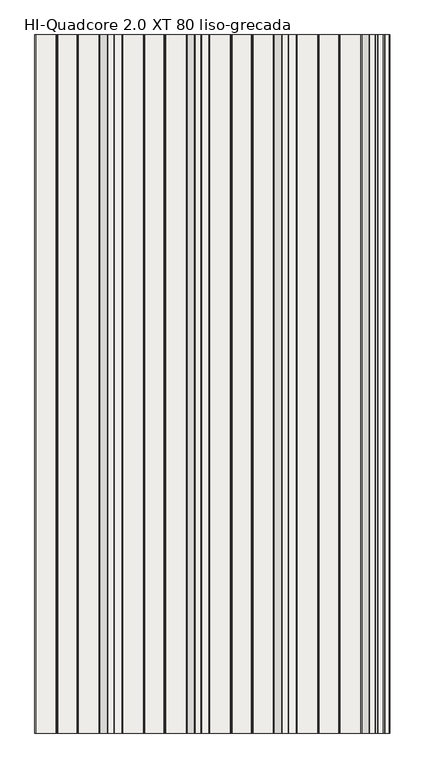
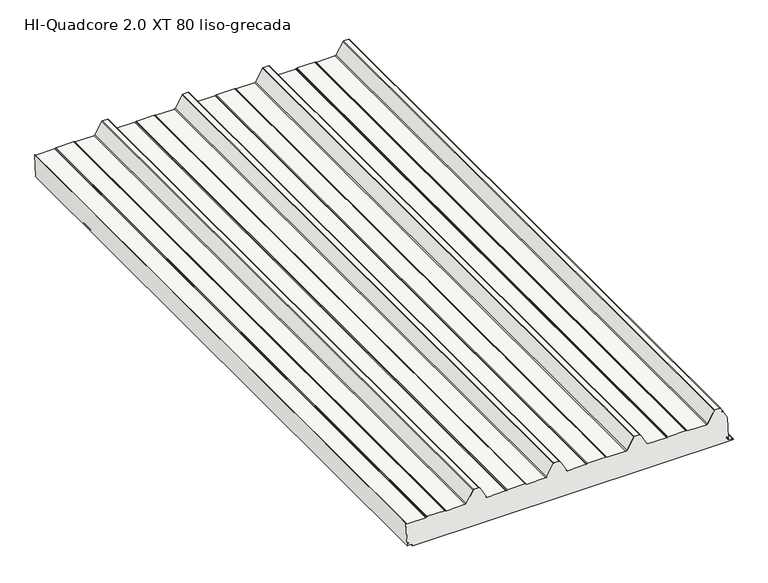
"""IFC4 building model written with IfcOpenShell, lengths in millimetres: slab geometry, HI_QuadCore2.0XT-XT DUAL : HI-Quadcore 2.0 XT 80 liso-grecada."""

from ifc_helpers import new_model, si_unit, point, frame, frame_2d, origin, place, context, project, spatial, polyline, circle_curve, trimmed, segment, composite_curve, outline, extrude, source, transform, mapped, element, save


def hi_quadcore_2_0_xt_80_liso_grecada_460e0768(model_context):
    return source(origin(), model_context, "Body", "SweptSolid", [
        extrude(outline(composite_curve([segment(polyline([(81.2667387, 1181.036551), (107.9197266, 1166.0442453)]), True, "CONTINUOUS"), segment(trimmed(circle_curve(frame_2d((106.9392041, 1164.3010942)), 2.0), [point((107.9197266, 1166.0442453))], [point((105.939301, 1166.033201))], True, "CARTESIAN"), True, "CONTINUOUS"), segment(polyline([(105.939301, 1166.033201), (104.3282068, 1165.1031555), (104.7281681, 1164.4103128), (106.3392623, 1165.3403583)]), True, "CONTINUOUS"), segment(trimmed(circle_curve(frame_2d((106.9392041, 1164.3010942)), 1.2), [point((106.3392623, 1165.3403583))], [point((107.5275176, 1165.3469849))], False, "CARTESIAN"), True, "CONTINUOUS"), segment(polyline([(107.5275176, 1165.3469849), (118.0785747, 1159.4120152)]), True, "CONTINUOUS"), segment(trimmed(circle_curve(frame_2d((117.0, 1157.4945491)), 2.2), [point((118.0785747, 1159.4120152))], [point((119.2, 1157.4945491))], False, "CARTESIAN"), True, "CONTINUOUS"), segment(polyline([(119.2, 1157.4945491), (119.2, 1142.1184247)]), True, "CONTINUOUS"), segment(trimmed(circle_curve(frame_2d((117.0, 1142.1184247)), 2.2), [point((119.2, 1142.1184247))], [point((118.0662182, 1140.1940602))], False, "CARTESIAN"), True, "CONTINUOUS"), segment(polyline([(118.0662182, 1140.1940602), (81.1583504, 1119.7447946)]), True, "CONTINUOUS"), segment(trimmed(circle_curve(frame_2d((83.0, 1116.4208923)), 3.8), [point((81.1583504, 1119.7447946))], [point((79.2, 1116.4208923))], True, "CARTESIAN"), True, "CONTINUOUS"), segment(polyline([(79.2, 1116.4208923), (79.2, 1057.5510443)]), True, "CONTINUOUS"), segment(trimmed(circle_curve(frame_2d((83.0, 1057.5510443)), 3.8), [point((79.2, 1057.5510443))], [point((79.6973596, 1055.671532))], True, "CARTESIAN"), True, "CONTINUOUS"), segment(polyline([(79.6973596, 1055.671532), (80.912055, 1053.5370944)]), True, "CONTINUOUS"), segment(trimmed(circle_curve(frame_2d((79.0, 1052.4489557)), 2.2), [point((80.912055, 1053.5370944))], [point((81.2, 1052.4489557))], False, "CARTESIAN"), True, "CONTINUOUS"), segment(polyline([(81.2, 1052.4489557), (81.2, 997.5510443)]), True, "CONTINUOUS"), segment(trimmed(circle_curve(frame_2d((79.0, 997.5510443)), 2.2), [point((81.2, 997.5510443))], [point((80.912055, 996.4629056))], False, "CARTESIAN"), True, "CONTINUOUS"), segment(polyline([(80.912055, 996.4629056), (79.6973596, 994.328468)]), True, "CONTINUOUS"), segment(trimmed(circle_curve(frame_2d((83.0, 992.4489557)), 3.8), [point((79.6973596, 994.328468))], [point((79.2, 992.4489557))], True, "CARTESIAN"), True, "CONTINUOUS"), segment(polyline([(79.2, 992.4489557), (79.2, 934.2545425)]), True, "CONTINUOUS"), segment(trimmed(circle_curve(frame_2d((83.0, 934.2545425)), 3.8), [point((79.2, 934.2545425))], [point((81.1370073, 930.9425554))], True, "CARTESIAN"), True, "CONTINUOUS"), segment(polyline([(81.1370073, 930.9425554), (118.0785747, 910.1629237)]), True, "CONTINUOUS"), segment(trimmed(circle_curve(frame_2d((117.0, 908.2454575)), 2.2), [point((118.0785747, 910.1629237))], [point((119.2, 908.2454575))], False, "CARTESIAN"), True, "CONTINUOUS"), segment(polyline([(119.2, 908.2454575), (119.2, 891.7545425)]), True, "CONTINUOUS"), segment(trimmed(circle_curve(frame_2d((117.0, 891.7545425)), 2.2), [point((119.2, 891.7545425))], [point((118.0785747, 889.8370763))], False, "CARTESIAN"), True, "CONTINUOUS"), segment(polyline([(118.0785747, 889.8370763), (81.1370073, 869.0574446)]), True, "CONTINUOUS"), segment(trimmed(circle_curve(frame_2d((83.0, 865.7454575)), 3.8), [point((81.1370073, 869.0574446))], [point((79.2, 865.7454575))], True, "CARTESIAN"), True, "CONTINUOUS"), segment(polyline([(79.2, 865.7454575), (79.2, 807.5510443)]), True, "CONTINUOUS"), segment(trimmed(circle_curve(frame_2d((83.0, 807.5510443)), 3.8), [point((79.2, 807.5510443))], [point((79.6973596, 805.671532))], True, "CARTESIAN"), True, "CONTINUOUS"), segment(polyline([(79.6973596, 805.671532), (80.912055, 803.5370944)]), True, "CONTINUOUS"), segment(trimmed(circle_curve(frame_2d((79.0, 802.4489557)), 2.2), [point((80.912055, 803.5370944))], [point((81.2, 802.4489557))], False, "CARTESIAN"), True, "CONTINUOUS"), segment(polyline([(81.2, 802.4489557), (81.2, 747.5510443)]), True, "CONTINUOUS"), segment(trimmed(circle_curve(frame_2d((79.0, 747.5510443)), 2.2), [point((81.2, 747.5510443))], [point((80.912055, 746.4629056))], False, "CARTESIAN"), True, "CONTINUOUS"), segment(polyline([(80.912055, 746.4629056), (79.6973596, 744.328468)]), True, "CONTINUOUS"), segment(trimmed(circle_curve(frame_2d((83.0, 742.4489557)), 3.8), [point((79.6973596, 744.328468))], [point((79.2, 742.4489557))], True, "CARTESIAN"), True, "CONTINUOUS"), segment(polyline([(79.2, 742.4489557), (79.2, 684.2545425)]), True, "CONTINUOUS"), segment(trimmed(circle_curve(frame_2d((83.0, 684.2545425)), 3.8), [point((79.2, 684.2545425))], [point((81.1370073, 680.9425554))], True, "CARTESIAN"), True, "CONTINUOUS"), segment(polyline([(81.1370073, 680.9425554), (118.0785747, 660.1629237)]), True, "CONTINUOUS"), segment(trimmed(circle_curve(frame_2d((117.0, 658.2454575)), 2.2), [point((118.0785747, 660.1629237))], [point((119.2, 658.2454575))], False, "CARTESIAN"), True, "CONTINUOUS"), segment(polyline([(119.2, 658.2454575), (119.2, 641.7545425)]), True, "CONTINUOUS"), segment(trimmed(circle_curve(frame_2d((117.0, 641.7545425)), 2.2), [point((119.2, 641.7545425))], [point((118.0785747, 639.8370763))], False, "CARTESIAN"), True, "CONTINUOUS"), segment(polyline([(118.0785747, 639.8370763), (81.1370073, 619.0574446)]), True, "CONTINUOUS"), segment(trimmed(circle_curve(frame_2d((83.0, 615.7454575)), 3.8), [point((81.1370073, 619.0574446))], [point((79.2, 615.7454575))], True, "CARTESIAN"), True, "CONTINUOUS"), segment(polyline([(79.2, 615.7454575), (79.2, 557.5510443)]), True, "CONTINUOUS"), segment(trimmed(circle_curve(frame_2d((83.0, 557.5510443)), 3.8), [point((79.2, 557.5510443))], [point((79.6973596, 555.671532))], True, "CARTESIAN"), True, "CONTINUOUS"), segment(polyline([(79.6973596, 555.671532), (80.912055, 553.5370944)]), True, "CONTINUOUS"), segment(trimmed(circle_curve(frame_2d((79.0, 552.4489557)), 2.2), [point((80.912055, 553.5370944))], [point((81.2, 552.4489557))], False, "CARTESIAN"), True, "CONTINUOUS"), segment(polyline([(81.2, 552.4489557), (81.2, 497.5510443)]), True, "CONTINUOUS"), segment(trimmed(circle_curve(frame_2d((79.0, 497.5510443)), 2.2), [point((81.2, 497.5510443))], [point((80.912055, 496.4629056))], False, "CARTESIAN"), True, "CONTINUOUS"), segment(polyline([(80.912055, 496.4629056), (79.6973596, 494.328468)]), True, "CONTINUOUS"), segment(trimmed(circle_curve(frame_2d((83.0, 492.4489557)), 3.8), [point((79.6973596, 494.328468))], [point((79.2, 492.4489557))], True, "CARTESIAN"), True, "CONTINUOUS"), segment(polyline([(79.2, 492.4489557), (79.2, 434.2545425)]), True, "CONTINUOUS"), segment(trimmed(circle_curve(frame_2d((83.0, 434.2545425)), 3.8), [point((79.2, 434.2545425))], [point((81.1370073, 430.9425554))], True, "CARTESIAN"), True, "CONTINUOUS"), segment(polyline([(81.1370073, 430.9425554), (118.0785747, 410.1629237)]), True, "CONTINUOUS"), segment(trimmed(circle_curve(frame_2d((117.0, 408.2454575)), 2.2), [point((118.0785747, 410.1629237))], [point((119.2, 408.2454575))], False, "CARTESIAN"), True, "CONTINUOUS"), segment(polyline([(119.2, 408.2454575), (119.2, 391.7545425)]), True, "CONTINUOUS"), segment(trimmed(circle_curve(frame_2d((117.0, 391.7545425)), 2.2), [point((119.2, 391.7545425))], [point((118.0785747, 389.8370763))], False, "CARTESIAN"), True, "CONTINUOUS"), segment(polyline([(118.0785747, 389.8370763), (81.1370073, 369.0574446)]), True, "CONTINUOUS"), segment(trimmed(circle_curve(frame_2d((83.0, 365.7454575)), 3.8), [point((81.1370073, 369.0574446))], [point((79.2, 365.7454575))], True, "CARTESIAN"), True, "CONTINUOUS"), segment(polyline([(79.2, 365.7454575), (79.2, 307.5510443)]), True, "CONTINUOUS"), segment(trimmed(circle_curve(frame_2d((83.0, 307.5510443)), 3.8), [point((79.2, 307.5510443))], [point((79.6973596, 305.671532))], True, "CARTESIAN"), True, "CONTINUOUS"), segment(polyline([(79.6973596, 305.671532), (80.912055, 303.5370944)]), True, "CONTINUOUS"), segment(trimmed(circle_curve(frame_2d((79.0, 302.4489557)), 2.2), [point((80.912055, 303.5370944))], [point((81.2, 302.4489557))], False, "CARTESIAN"), True, "CONTINUOUS"), segment(polyline([(81.2, 302.4489557), (81.2, 247.5510443)]), True, "CONTINUOUS"), segment(trimmed(circle_curve(frame_2d((79.0, 247.5510443)), 2.2), [point((81.2, 247.5510443))], [point((80.912055, 246.4629056))], False, "CARTESIAN"), True, "CONTINUOUS"), segment(polyline([(80.912055, 246.4629056), (79.6973596, 244.328468)]), True, "CONTINUOUS"), segment(trimmed(circle_curve(frame_2d((83.0, 242.4489557)), 3.8), [point((79.6973596, 244.328468))], [point((79.2, 242.4489557))], True, "CARTESIAN"), True, "CONTINUOUS"), segment(polyline([(79.2, 242.4489557), (79.2, 184.6545425)]), True, "CONTINUOUS"), segment(trimmed(circle_curve(frame_2d((83.0, 184.6545425)), 3.8), [point((79.2, 184.6545425))], [point((81.2048889, 181.3052775))], True, "CARTESIAN"), True, "CONTINUOUS"), segment(polyline([(81.2048889, 181.3052775), (7.0308362, 184.4622222), (7.2414513, 185.8457731), (11.9758655, 185.8456417)]), True, "CONTINUOUS"), segment(trimmed(circle_curve(frame_2d((11.9759203, 187.8456416)), 1.9999999), [point((11.9758655, 185.8456417))], [point((13.3900948, 186.4313891))], True, "CARTESIAN"), True, "CONTINUOUS"), segment(polyline([(13.3900948, 186.4313891), (15.4963556, 188.5375329), (14.9306702, 189.1032183), (12.8244256, 186.9970899)]), True, "CONTINUOUS"), segment(trimmed(circle_curve(frame_2d((11.9759203, 187.8456416)), 1.2000005), [point((12.8244256, 186.9970899))], [point((11.9773876, 186.645642))], False, "CARTESIAN"), True, "CONTINUOUS"), segment(polyline([(11.9773876, 186.645642), (8.3337067, 186.6457428)]), True, "CONTINUOUS"), segment(trimmed(circle_curve(frame_2d((8.3337399, 187.8457428)), 1.2), [point((8.3337067, 186.6457428))], [point((7.1369444, 187.7581044))], False, "CARTESIAN"), True, "CONTINUOUS"), segment(polyline([(7.1369444, 187.7581044), (6.3740035, 198.1768616)]), True, "CONTINUOUS"), segment(trimmed(circle_curve(frame_2d((3.5874027, 197.9032632)), 2.8), [point((6.3740035, 198.1768616))], [point((3.5874804, 200.7032632))], True, "CARTESIAN"), True, "CONTINUOUS"), segment(polyline([(3.5874804, 200.7032632), (1.9756233, 200.7033079)]), True, "CONTINUOUS"), segment(trimmed(circle_curve(frame_2d((1.9756562, 201.9033076)), 1.1999997), [point((1.9756233, 200.7033079))], [point((0.7756565, 201.9033408))], False, "CARTESIAN"), True, "CONTINUOUS"), segment(polyline([(0.7756565, 201.9033408), (0.8032689, 1197.9136557)]), True, "CONTINUOUS"), segment(trimmed(circle_curve(frame_2d((2.0032353, 1197.9046782)), 1.2), [point((0.8032689, 1197.9136557))], [point((2.0032686, 1199.1046782))], False, "CARTESIAN"), True, "CONTINUOUS"), segment(polyline([(2.0032686, 1199.1046782), (2.9118044, 1199.104653)]), True, "CONTINUOUS"), segment(trimmed(circle_curve(frame_2d((2.9117711, 1197.9046533)), 1.1999997), [point((2.9118044, 1199.104653))], [point((4.1105786, 1197.9581323))], False, "CARTESIAN"), True, "CONTINUOUS"), segment(polyline([(4.1105786, 1197.9581323), (5.0061949, 1186.1323972)]), True, "CONTINUOUS"), segment(trimmed(circle_curve(frame_2d((7.7981993, 1186.3438482)), 2.8), [point((5.0061949, 1186.1323972))], [point((7.7981217, 1183.5438482))], True, "CARTESIAN"), True, "CONTINUOUS"), segment(polyline([(7.7981217, 1183.5438482), (11.7460458, 1183.5455151)]), True, "CONTINUOUS"), segment(trimmed(circle_curve(frame_2d((11.7411592, 1182.3429645)), 1.2025605), [point((11.7460458, 1183.5455151))], [point((12.5937174, 1183.1910778))], False, "CARTESIAN"), True, "CONTINUOUS"), segment(polyline([(12.5937174, 1183.1910778), (14.0134457, 1181.7779905), (14.5791311, 1182.3436759), (13.1649724, 1183.757913), (81.2667387, 1181.036551)]), True, "CONTINUOUS")], self_intersect=False)), frame((0.0, 0.0, 0.0), z_axis=(0.0, 1.0, 0.0), x_axis=(0.0, 0.0, 1.0)), (0.0, 0.0, 1.0), 2000.0),
    ])


if __name__ == "__main__":
    model = new_model("IFC4")
    model_context = context("Model", 3, world=origin())
    ifc_project = project(units=[si_unit("LENGTHUNIT", "METRE", prefix="MILLI")], contexts=[model_context])
    site = spatial("IfcSite", under=ifc_project)
    building = spatial("IfcBuilding", under=site)
    placement = place(None, origin())
    hi_quadcore_2_0_xt_80_liso_grecada_shape = hi_quadcore_2_0_xt_80_liso_grecada_460e0768(model_context)
    element("IfcSlab", 1, ObjectType="HI_QuadCore2.0XT-XT DUAL : HI-Quadcore 2.0 XT 80 liso-grecada", at=placement, inside=building, context=model_context, shape_type="MappedRepresentation", body=[
        mapped(hi_quadcore_2_0_xt_80_liso_grecada_shape, transform((0.0, 0.0, 0.0), x_axis=(1.0, 0.0, 0.0), y_axis=(0.0, 1.0, 0.0), z_axis=(0.0, 0.0, 1.0))),
    ])
    save(model, "model.ifc")
